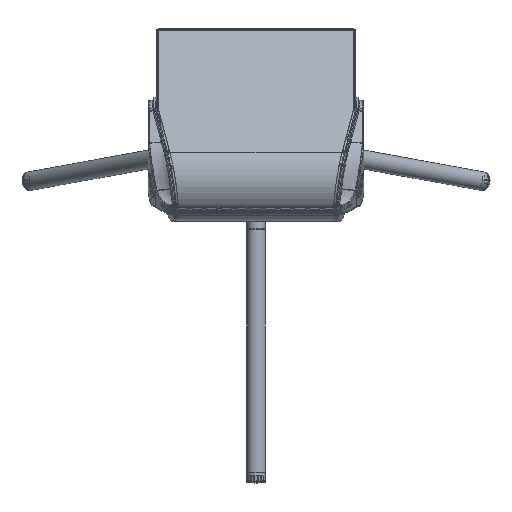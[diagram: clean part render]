
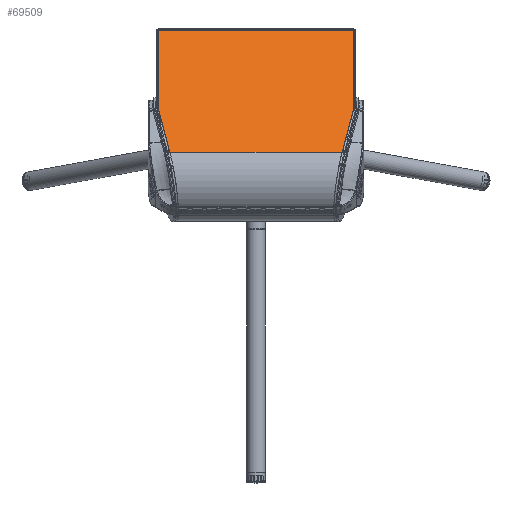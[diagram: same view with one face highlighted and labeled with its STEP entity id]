
A CAD part, top view. The second image highlights one B-rep face of the part: STEP entity #69509.
In plain terms, the highlighted planar face has unit normal (0, 0.643, 0.766).
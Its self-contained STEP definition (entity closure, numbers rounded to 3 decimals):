
#18712=ORIENTED_EDGE('',*,*,#35931,.F.);
#18713=ORIENTED_EDGE('',*,*,#35928,.F.);
#18714=ORIENTED_EDGE('',*,*,#36048,.T.);
#18715=ORIENTED_EDGE('',*,*,#36055,.T.);
#18716=ORIENTED_EDGE('',*,*,#36064,.F.);
#18717=ORIENTED_EDGE('',*,*,#35939,.F.);
#18718=ORIENTED_EDGE('',*,*,#35934,.F.);
#18719=ORIENTED_EDGE('',*,*,#36002,.F.);
#18720=ORIENTED_EDGE('',*,*,#36042,.F.);
#18721=ORIENTED_EDGE('',*,*,#35985,.F.);
#35928=EDGE_CURVE('',#45338,#45339,#51034,.T.);
#35931=EDGE_CURVE('',#45339,#45341,#51037,.T.);
#35934=EDGE_CURVE('',#45343,#45344,#51040,.T.);
#35939=EDGE_CURVE('',#45344,#45348,#51045,.T.);
#35985=EDGE_CURVE('',#45341,#45372,#51083,.T.);
#36002=EDGE_CURVE('',#45381,#45343,#51096,.T.);
#36042=EDGE_CURVE('',#45372,#45381,#51124,.T.);
#36048=EDGE_CURVE('',#45338,#45412,#51126,.T.);
#36055=EDGE_CURVE('',#45412,#45414,#51131,.T.);
#36064=EDGE_CURVE('',#45348,#45414,#51140,.T.);
#45338=VERTEX_POINT('',#124219);
#45339=VERTEX_POINT('',#124221);
#45341=VERTEX_POINT('',#124227);
#45343=VERTEX_POINT('',#124233);
#45344=VERTEX_POINT('',#124234);
#45348=VERTEX_POINT('',#124244);
#45372=VERTEX_POINT('',#124339);
#45381=VERTEX_POINT('',#124418);
#45412=VERTEX_POINT('',#124549);
#45414=VERTEX_POINT('',#124561);
#51034=LINE('',#124220,#54298);
#51037=LINE('',#124226,#54301);
#51040=LINE('',#124232,#54304);
#51045=LINE('',#124243,#54309);
#51083=LINE('',#124338,#54347);
#51096=LINE('',#124417,#54360);
#51124=LINE('',#124540,#54388);
#51126=LINE('',#124550,#54390);
#51131=LINE('',#124562,#54395);
#51140=LINE('',#124576,#54404);
#54298=VECTOR('',#88042,1000.);
#54301=VECTOR('',#88047,1000.);
#54304=VECTOR('',#88052,1000.);
#54309=VECTOR('',#88059,1000.);
#54347=VECTOR('',#88137,1000.);
#54360=VECTOR('',#88164,1000.);
#54388=VECTOR('',#88232,1000.);
#54390=VECTOR('',#88246,1000.);
#54395=VECTOR('',#88261,1000.);
#54404=VECTOR('',#88280,1000.);
#58324=EDGE_LOOP('',(#18712,#18713,#18714,#18715,#18716,#18717,#18718,#18719,
#18720,#18721));
#63528=FACE_BOUND('',#58324,.T.);
#67231=PLANE('',#77149);
#69509=ADVANCED_FACE('',(#63528),#67231,.T.);
#77149=AXIS2_PLACEMENT_3D('',#124578,#88283,#88284);
#88042=DIRECTION('',(1.,0.,0.));
#88047=DIRECTION('',(0.,0.766,-0.643));
#88052=DIRECTION('',(0.,-0.766,0.643));
#88059=DIRECTION('',(1.,0.,0.));
#88137=DIRECTION('',(0.,0.766,-0.643));
#88164=DIRECTION('',(0.,-0.766,0.643));
#88232=DIRECTION('',(1.,0.,0.));
#88246=DIRECTION('',(0.199,-0.751,0.63));
#88261=DIRECTION('',(1.,0.,0.));
#88280=DIRECTION('',(-0.199,-0.751,0.63));
#88283=DIRECTION('',(0.,0.643,0.766));
#88284=DIRECTION('',(-1.,0.,0.));
#124219=CARTESIAN_POINT('',(-169.726,-137.37,1001.676));
#124220=CARTESIAN_POINT('',(170.,-137.37,1001.676));
#124221=CARTESIAN_POINT('',(-167.,-137.37,1001.676));
#124226=CARTESIAN_POINT('',(-167.,1.322,885.3));
#124227=CARTESIAN_POINT('',(-167.,-136.221,1000.712));
#124232=CARTESIAN_POINT('',(167.,1.322,885.3));
#124233=CARTESIAN_POINT('',(167.,-136.221,1000.712));
#124234=CARTESIAN_POINT('',(167.,-137.37,1001.676));
#124243=CARTESIAN_POINT('',(170.,-137.37,1001.676));
#124244=CARTESIAN_POINT('',(169.726,-137.37,1001.676));
#124338=CARTESIAN_POINT('',(-167.,1.677,885.002));
#124339=CARTESIAN_POINT('',(-167.,1.322,885.3));
#124417=CARTESIAN_POINT('',(167.,-136.221,1000.712));
#124418=CARTESIAN_POINT('',(167.,1.322,885.3));
#124540=CARTESIAN_POINT('',(167.,1.322,885.3));
#124549=CARTESIAN_POINT('',(-150.774,-208.728,1061.553));
#124550=CARTESIAN_POINT('',(-170.,-136.336,1000.809));
#124561=CARTESIAN_POINT('',(150.774,-208.728,1061.553));
#124562=CARTESIAN_POINT('',(-170.,-208.728,1061.553));
#124576=CARTESIAN_POINT('',(170.,-136.336,1000.809));
#124578=CARTESIAN_POINT('',(-170.,1.322,885.3));
